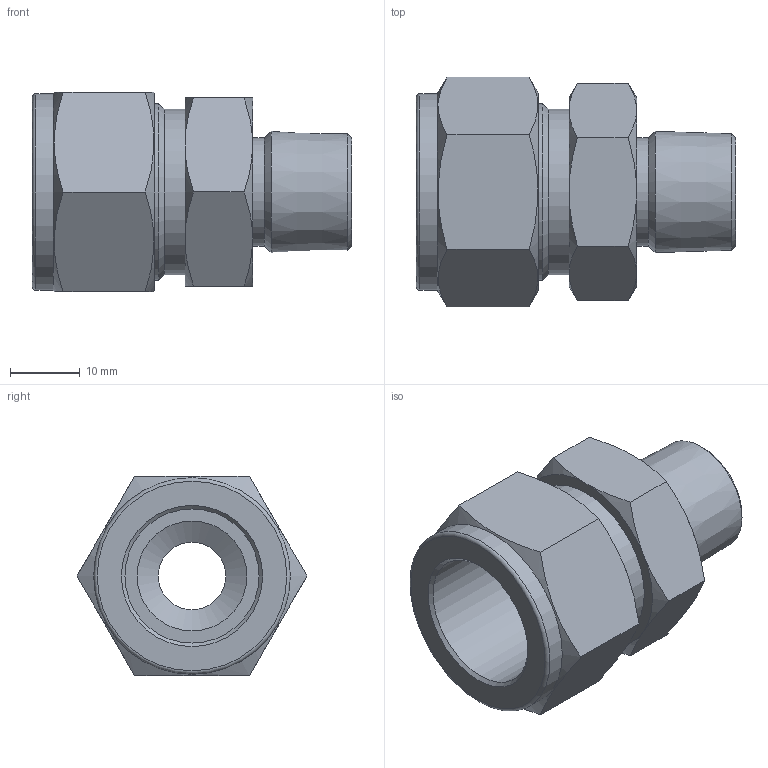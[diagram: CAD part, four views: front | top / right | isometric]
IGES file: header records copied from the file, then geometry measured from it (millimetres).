
Global section: file name: No Iges File Name specified; native system: Autodesk Inventor 2012; preprocessor: AutoDesk Inventor Iges Exporter R2012; author: 硅己绕,, ; organization: 11; date: 20150603.093245; units: millimetre
Bounding box: 45.79 x 33 x 28.57 mm (x, y, z)
Volume: 14143.2 mm3; surface area: 7304.9 mm2
Topology: 1 solids, 1 shells, 48 faces, 99 edges, 58 vertices
Faces by surface type: plane 19, cone 18, revolution 6, cylinder 4, torus 1
Full cylindrical faces by diameter (mm): 15.5 x1, 23.7 x1, 25.4 x1, 28.2 x1
